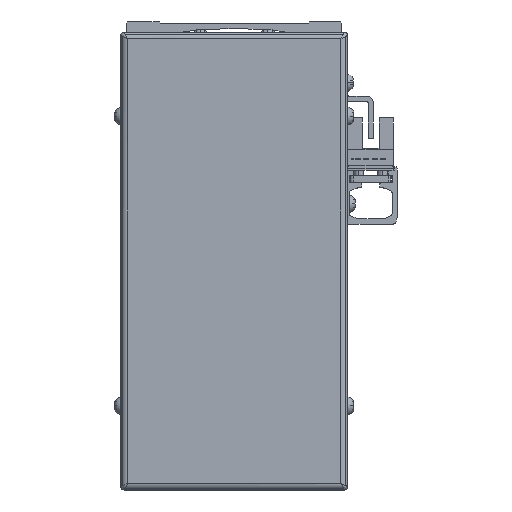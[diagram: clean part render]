
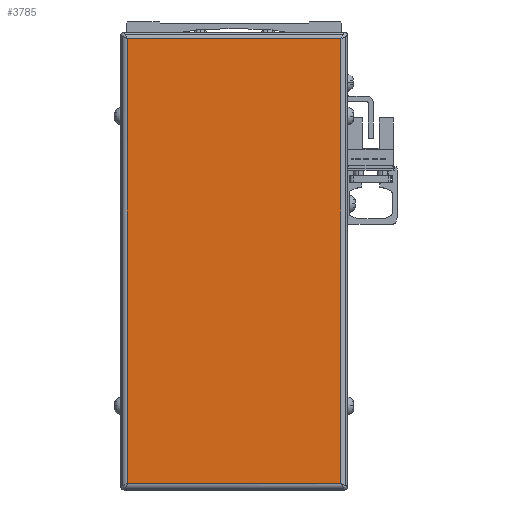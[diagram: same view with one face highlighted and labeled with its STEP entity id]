
A CAD part, front view. The second image highlights one B-rep face of the part: STEP entity #3785.
In plain terms, the highlighted planar face has unit normal (0, -1, 0).
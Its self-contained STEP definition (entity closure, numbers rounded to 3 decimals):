
#3785=ADVANCED_FACE('',(#8735),#8736,.T.);
#8735=FACE_OUTER_BOUND('',#15438,.T.);
#8736=PLANE('',#15439);
#15438=EDGE_LOOP('',(#26079,#26080,#26081,#26082));
#15439=AXIS2_PLACEMENT_3D('',#26083,#26084,#26085);
#26079=ORIENTED_EDGE('',*,*,#42043,.F.);
#26080=ORIENTED_EDGE('',*,*,#42044,.F.);
#26081=ORIENTED_EDGE('',*,*,#42045,.F.);
#26082=ORIENTED_EDGE('',*,*,#42046,.F.);
#26083=CARTESIAN_POINT('',(300.,181.,-44.));
#26084=DIRECTION('',(0.,-1.0,0.));
#26085=DIRECTION('',(0.,0.,1.0));
#42043=EDGE_CURVE('',#51080,#51081,#51082,.T.);
#42044=EDGE_CURVE('',#51083,#51080,#51084,.T.);
#42045=EDGE_CURVE('',#51085,#51083,#51086,.T.);
#42046=EDGE_CURVE('',#51081,#51085,#51087,.T.);
#51080=VERTEX_POINT('',#63611);
#51081=VERTEX_POINT('',#63612);
#51082=LINE('',#63613,#63614);
#51083=VERTEX_POINT('',#63615);
#51084=LINE('',#63616,#63617);
#51085=VERTEX_POINT('',#63618);
#51086=LINE('',#63619,#63620);
#51087=LINE('',#63621,#63622);
#63611=CARTESIAN_POINT('',(268.3,181.,22.));
#63612=CARTESIAN_POINT('',(331.7,181.,22.));
#63613=CARTESIAN_POINT('',(300.,181.,22.));
#63614=VECTOR('',#75658,10.0);
#63615=CARTESIAN_POINT('',(268.3,181.,-110.));
#63616=CARTESIAN_POINT('',(268.3,181.,-44.));
#63617=VECTOR('',#75659,10.0);
#63618=CARTESIAN_POINT('',(331.7,181.,-110.));
#63619=CARTESIAN_POINT('',(300.,181.,-110.));
#63620=VECTOR('',#75660,10.0);
#63621=CARTESIAN_POINT('',(331.7,181.,-44.));
#63622=VECTOR('',#75661,10.0);
#75658=DIRECTION('',(1.0,0.,0.));
#75659=DIRECTION('',(0.,0.,1.0));
#75660=DIRECTION('',(-1.0,0.,0.));
#75661=DIRECTION('',(0.,0.,-1.0));
